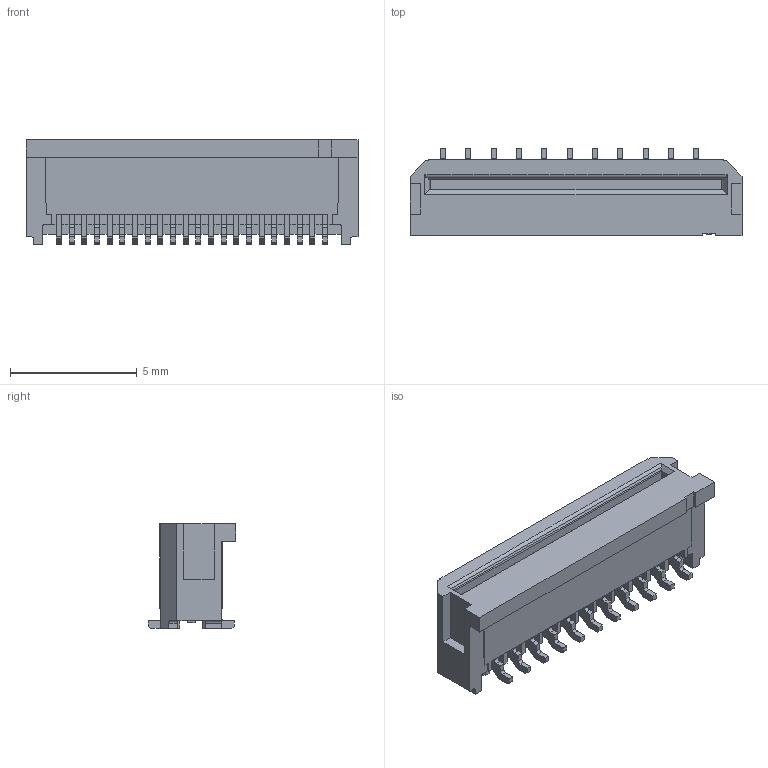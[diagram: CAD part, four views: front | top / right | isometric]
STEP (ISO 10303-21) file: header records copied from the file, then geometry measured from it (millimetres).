
FILE_DESCRIPTION(('CATIA V5 STEP Exchange'),'2;1');
FILE_NAME('C:\Users\user\Desktop\作業中 0601分\差し替えデータ\00_6244_022_010_xxx_+.stp','2015-06-02T06:03:38+00:00',('none'),('none'),'CATIA Version 5 Release 19 SP 9 (IN-10)','CATIA V5 STEP AP214','none');
FILE_SCHEMA(('AUTOMOTIVE_DESIGN { 1 0 10303 214 1 1 1 1 }'));
Length unit declared in the file: millimetre
Products named in the file (1): Part1
Bounding box: 13.1 x 3.45 x 4.13 mm (x, y, z)
Volume: 102.9 mm3; surface area: 329.8 mm2
Topology: 1 solids, 1 shells, 613 faces, 2011 edges, 1401 vertices
Faces by surface type: plane 559, cylinder 54
Entity records: 19606 total; most frequent: ORIENTED_EDGE 4022, CARTESIAN_POINT 3673, DIRECTION 2309, EDGE_CURVE 2011, VECTOR 1889, LINE 1889, VERTEX_POINT 1401, EDGE_LOOP 614
